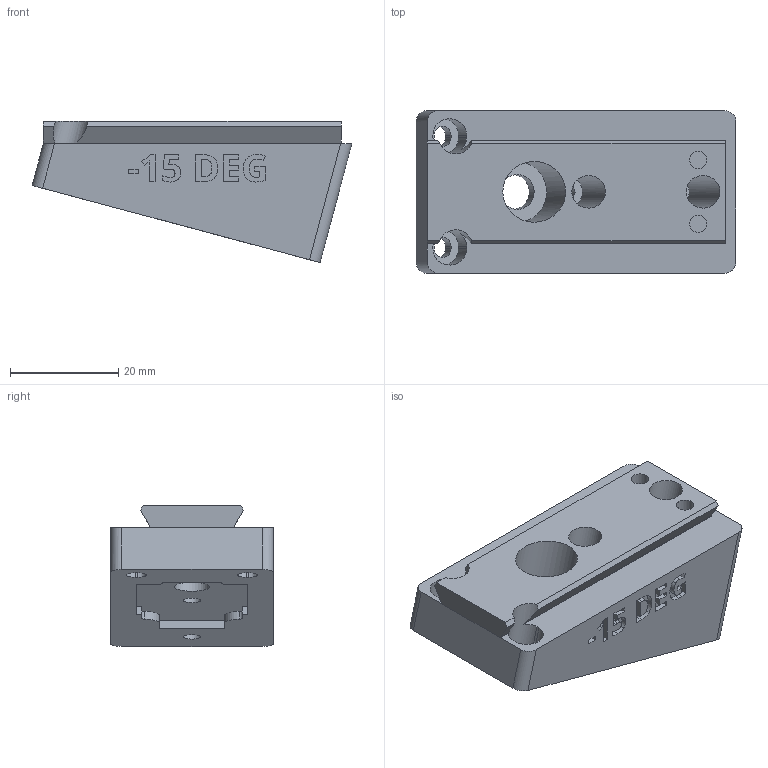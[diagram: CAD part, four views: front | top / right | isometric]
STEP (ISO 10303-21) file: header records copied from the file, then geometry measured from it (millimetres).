
FILE_DESCRIPTION(/* description */ ('STEP AP242 Edition 2','CAx-IF Rec.Pracs.---Representation and Presentation of Product Manufacturing Information (PMI)---4.0---2014-10-13','CAx-IF Rec.Pracs.---3D Tessellated Geometry---0.4---2014-09-14','2;1','CAx-IF Rec.Pracs.---User Defined Attributes---1.5---2016-08-15'),/* implementation_level */ '2;1');
FILE_NAME(/* name */ 'Camera Wedges - CAMERA MOUNTING WEDGE, NEG, -15 DEG',/* time_stamp */ '2026-08-11T00:06:28Z',/* author */ (''),/* organization */ (''),/* preprocessor_version */ 'ST-DEVELOPER v20',/* originating_system */ 'ONSHAPE BY PTC INC, 1.219',/* authorisation */ ' ');
FILE_SCHEMA (('AP242_MANAGED_MODEL_BASED_3D_ENGINEERING_MIM_LF { 1 0 10303 442 3 1 4 }'));
Length unit declared in the file: metre
Products named in the file (1): CAMERA MOUNTING WEDGE, NEG, -15 DEG
Bounding box: 59 x 30 x 26.03 mm (x, y, z)
Volume: 25262.8 mm3; surface area: 8571.7 mm2
Topology: 1 solids, 1 shells, 245 faces, 667 edges, 444 vertices
Faces by surface type: plane 155, cylinder 46, bspline 44
Full cylindrical faces by diameter (mm): 3.2 x4, 6 x2, 6.4 x1, 11.2 x1
Entity records: 7847 total; most frequent: CARTESIAN_POINT 1833, ORIENTED_EDGE 1318, DIRECTION 1079, EDGE_CURVE 659, LINE 467, VECTOR 467, VERTEX_POINT 444, AXIS2_PLACEMENT_3D 306
